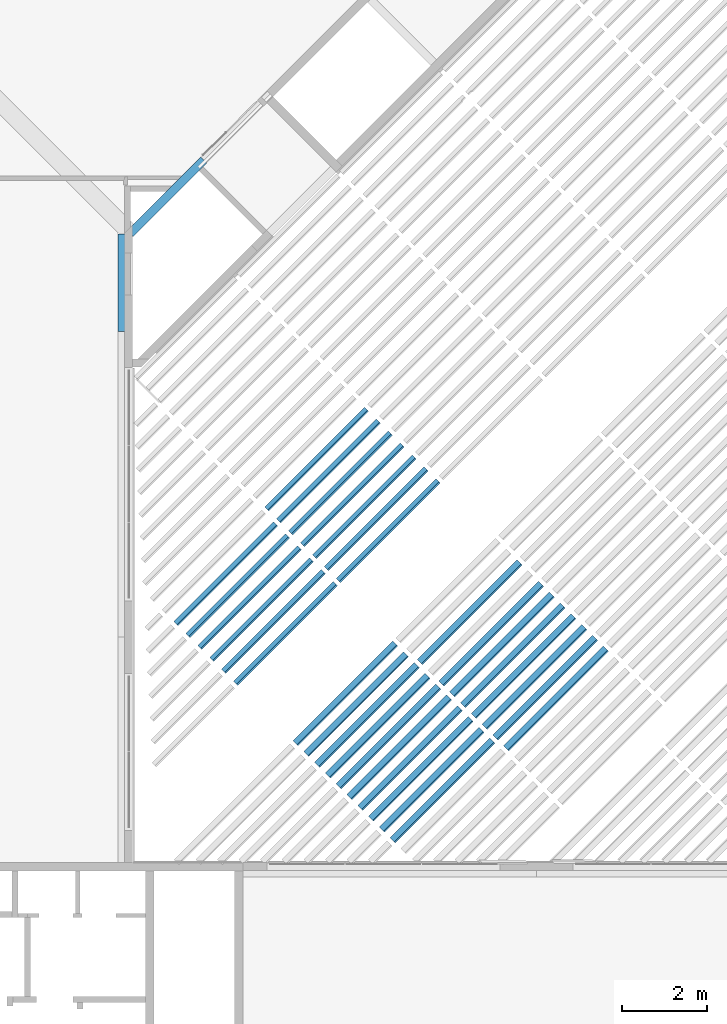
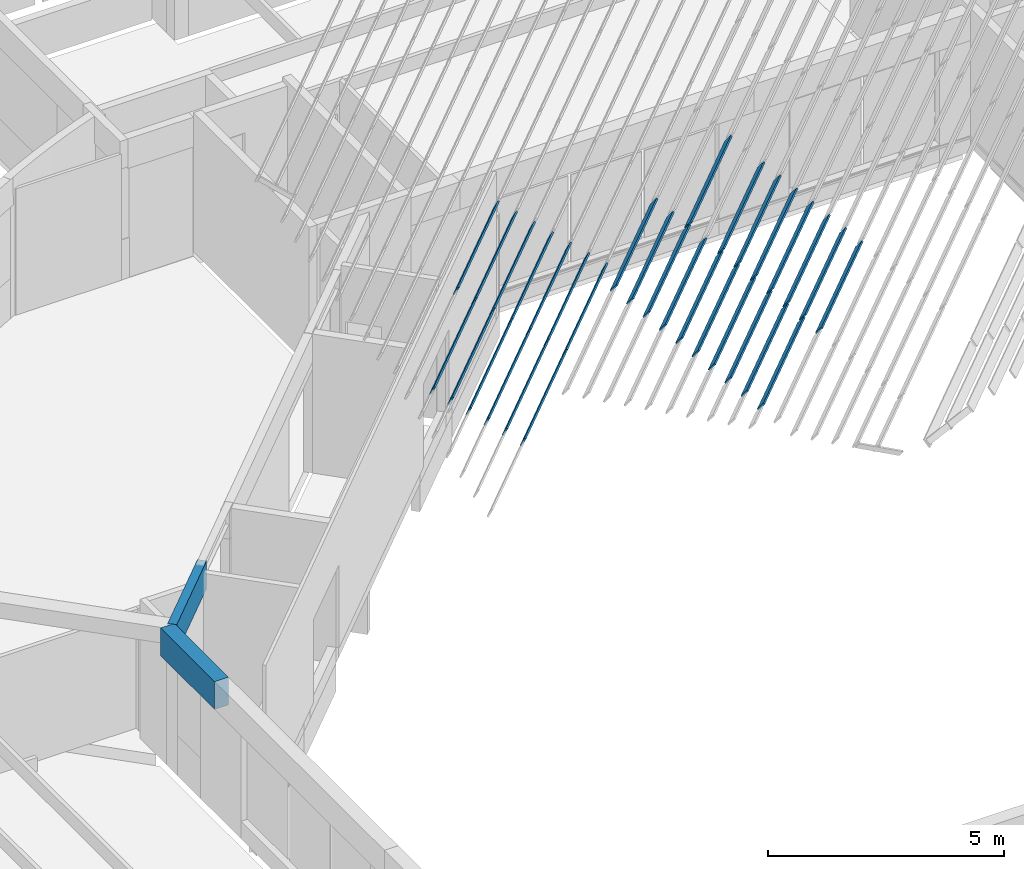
# One storey, part 4 of 37: 33 beams.
"""IFC4X3_ADD2 building model written with IfcOpenShell, lengths in millimetres."""

import ifcopenshell
import ifcopenshell.guid

model = None  # the IFC model being written
_history = None  # IfcOwnerHistory: only IFC2X3 demands one
_inside = {}  # id of a spatial element -> (the spatial element, [elements in it])
_under = {}  # id of a project, library or spatial element -> (it, [spatial elements below it])
_declared = {}  # id of a project -> (the project, [libraries it declares])
_typed = {}  # id of a type object -> (the type object, [elements of that type])
_made_of = {}  # id of a material, layer set ... -> (it, [elements and type objects made of it])


def new_model(schema):
    """Start an empty IFC model of exactly this schema.

    Asked for "IFC4X3", IfcOpenShell would pick the latest addendum, in which some entities
    have other attributes; the version numbers below select the first issue.
    IFC2X3 requires an IfcOwnerHistory on every rooted entity: one is made here for all.
    """
    global model, _history
    if schema == "IFC4X3":
        model = ifcopenshell.file(schema_version=(4, 3, 0, 0))
    else:
        model = ifcopenshell.file(schema=schema)
    _inside.clear()
    _under.clear()
    _declared.clear()
    _typed.clear()
    _made_of.clear()
    _history = None
    if model.schema == "IFC2X3":
        org = make("IfcOrganization", Name="unknown")
        user = make(
            "IfcPersonAndOrganization",
            ThePerson=make("IfcPerson", FamilyName="unknown"),
            TheOrganization=org,
        )
        app = make(
            "IfcApplication",
            ApplicationDeveloper=org,
            Version="unknown",
            ApplicationFullName="unknown",
            ApplicationIdentifier="unknown",
        )
        _history = make(
            "IfcOwnerHistory",
            OwningUser=user,
            OwningApplication=app,
            ChangeAction="ADDED",
            CreationDate=0,
        )
    return model


def make(cls, **values):
    """One entity of the class cls with the attributes given. An attribute that is None is left unset."""
    return model.create_entity(
        cls, **{name: value for name, value in values.items() if value is not None}
    )


def rooted(cls, **values):
    """An entity with a GlobalId (a new one), such as an element, a storey or a relation."""
    return make(cls, GlobalId=ifcopenshell.guid.new(), OwnerHistory=_history, **values)


def si_unit(unit_type, name, prefix=None):
    """IfcSIUnit, for example si_unit("LENGTHUNIT", "METRE", prefix="MILLI")."""
    return make("IfcSIUnit", UnitType=unit_type, Prefix=prefix, Name=name)


def assignment(units):
    """IfcUnitAssignment: the units of a project."""
    return None if units is None else make("IfcUnitAssignment", Units=units)


def point(xyz):
    """IfcCartesianPoint."""
    return None if xyz is None else make("IfcCartesianPoint", Coordinates=xyz)


def direction(xyz):
    """IfcDirection."""
    return None if xyz is None else make("IfcDirection", DirectionRatios=xyz)


def frame(location, z_axis=None, x_axis=None):
    """IfcAxis2Placement3D, a coordinate frame: its origin and axes. An axis left out is left unset."""
    return make(
        "IfcAxis2Placement3D",
        Location=point(location),
        Axis=direction(z_axis),
        RefDirection=direction(x_axis),
    )


def frame_2d(location, x_axis=None):
    """IfcAxis2Placement2D, a coordinate frame in the plane: its origin and x axis."""
    return make(
        "IfcAxis2Placement2D", Location=point(location), RefDirection=direction(x_axis)
    )


def origin_with_axes():
    """The frame at (0, 0, 0) with the z axis (0, 0, 1) and the x axis (1, 0, 0) written out."""
    return frame((0.0, 0.0, 0.0), z_axis=(0.0, 0.0, 1.0), x_axis=(1.0, 0.0, 0.0))


def origin_2d_with_axis():
    """The frame at (0, 0) in the plane with the x axis (1, 0) written out."""
    return frame_2d((0.0, 0.0), x_axis=(1.0, 0.0))


def place(relative_to, where):
    """IfcLocalPlacement: puts the frame where relative to a parent placement (None: the world)."""
    return make(
        "IfcLocalPlacement", PlacementRelTo=relative_to, RelativePlacement=where
    )


def context(
    kind, dimensions, precision=None, world=None, true_north=None, identifier=None
):
    """IfcGeometricRepresentationContext, for example the 3D "Model" context."""
    return make(
        "IfcGeometricRepresentationContext",
        ContextIdentifier=identifier,
        ContextType=kind,
        CoordinateSpaceDimension=dimensions,
        Precision=precision,
        WorldCoordinateSystem=world,
        TrueNorth=true_north,
    )


def subcontext(parent, identifier, kind, view, scale=None):
    """IfcGeometricRepresentationSubContext, for example "Body" below "Model"."""
    return make(
        "IfcGeometricRepresentationSubContext",
        ContextIdentifier=identifier,
        ContextType=kind,
        ParentContext=parent,
        TargetScale=scale,
        TargetView=view,
    )


def project(units=None, contexts=None):
    """IfcProject with its units and contexts."""
    return rooted(
        "IfcProject",
        Name="project",
        RepresentationContexts=contexts,
        UnitsInContext=assignment(units),
    )


def spatial(cls, under=None, at=None, **own):
    """A site, building, storey or space (cls), placed at a placement, below another one or the project."""
    s = rooted(cls, ObjectPlacement=at, **own)
    if under is not None:
        _under.setdefault(under.id(), (under, []))[1].append(s)
    return s


def profile(cls, at=None, kind="AREA", **sizes):
    """A parametric profile (cls). Its sizes go by their IFC names, for example OverallWidth=200.0."""
    return make(cls, ProfileType=kind, Position=at, **sizes)


def rectangle(**sizes):
    """IfcRectangleProfileDef."""
    return profile("IfcRectangleProfileDef", **sizes)


def extrude(swept, where, along, depth):
    """IfcExtrudedAreaSolid: the profile swept, set in the frame where, extruded along a direction by depth."""
    return make(
        "IfcExtrudedAreaSolid",
        SweptArea=swept,
        Position=where,
        ExtrudedDirection=direction(along),
        Depth=depth,
    )


def shape(context_of_items, identifier, shape_type, items):
    """IfcShapeRepresentation: the items that make up one representation, for example the "Body"."""
    return make(
        "IfcShapeRepresentation",
        ContextOfItems=context_of_items,
        RepresentationIdentifier=identifier,
        RepresentationType=shape_type,
        Items=items,
    )


def source(mapping_origin, context_of_items, identifier, shape_type, items):
    """IfcRepresentationMap: a shape defined once, which mapped items show again and again."""
    return make(
        "IfcRepresentationMap",
        MappingOrigin=mapping_origin,
        MappedRepresentation=shape(context_of_items, identifier, shape_type, items),
    )


def transform(
    local_origin,
    x_axis=None,
    y_axis=None,
    z_axis=None,
    scale=None,
    scale2=None,
    scale3=None,
    uniform=True,
):
    """IfcCartesianTransformationOperator3D, or its non-uniform kind. x_axis, y_axis, z_axis: its Axis1, 2, 3."""
    if uniform:
        return make(
            "IfcCartesianTransformationOperator3D",
            Axis1=direction(x_axis),
            Axis2=direction(y_axis),
            LocalOrigin=point(local_origin),
            Scale=scale,
            Axis3=direction(z_axis),
        )
    return make(
        "IfcCartesianTransformationOperator3DnonUniform",
        Axis1=direction(x_axis),
        Axis2=direction(y_axis),
        LocalOrigin=point(local_origin),
        Scale=scale,
        Axis3=direction(z_axis),
        Scale2=scale2,
        Scale3=scale3,
    )


def mapped(mapping_source, mapping_target):
    """IfcMappedItem: shows the shape of a source again, moved by a transform."""
    return make(
        "IfcMappedItem", MappingSource=mapping_source, MappingTarget=mapping_target
    )


def material(Name=None, Category=None):
    """IfcMaterial."""
    return make("IfcMaterial", Name=Name, Category=Category)


def made_of(thing, what):
    """Note that an element or type object is made of a material, layer set ...; save() writes the relation."""
    if what is not None:
        _made_of.setdefault(what.id(), (what, []))[1].append(thing)
    return thing


def type_object(cls, material=None, **own):
    """A type object (cls), such as IfcWallType, which elements share."""
    return made_of(rooted(cls, **own), material)


def type_shapes(of_type, sources):
    """Give a type object the sources (RepresentationMaps) that its elements show as mapped items."""
    of_type.RepresentationMaps = sources


def element(
    cls,
    number,
    at=None,
    inside=None,
    cuts=None,
    type_object=None,
    material=None,
    context=None,
    identifier="Body",
    shape_type=None,
    held_by="IfcProductDefinitionShape",
    body=None,
    shapes=None,
    **own,
):
    """One element of the class cls, such as IfcWall. Its Tag is "e" and its number.

    at: its placement. inside: the storey or other place that contains it. cuts: it is an
    opening in that element (IfcRelVoidsElement). A single representation is given by context,
    identifier, shape_type and body (its items); several are given by shapes. held_by: the class
    of the entity that holds the representations. save() writes the other relations.
    """
    e = rooted(cls, Tag="e%d" % number, ObjectPlacement=at, **own)
    if body is not None:
        shapes = [shape(context, identifier, shape_type, body)]
    if shapes is not None:
        e.Representation = make(held_by, Representations=shapes)
    if inside is not None:
        _inside.setdefault(inside.id(), (inside, []))[1].append(e)
    if cuts is not None:
        rooted(
            "IfcRelVoidsElement", RelatingBuildingElement=cuts, RelatedOpeningElement=e
        )
    if type_object is not None:
        _typed.setdefault(type_object.id(), (type_object, []))[1].append(e)
    return made_of(e, material)


def aggregate(whole, parts):
    """IfcRelAggregates: a whole, such as a stair, and the parts it consists of."""
    return rooted("IfcRelAggregates", RelatingObject=whole, RelatedObjects=parts)


def save(model, path):
    """Write the relations noted so far, then the file.

    IfcRelAggregates (storeys below a building ...), IfcRelContainedInSpatialStructure (elements
    in a storey), IfcRelDefinesByType, IfcRelAssociatesMaterial and IfcRelDeclares: one each for
    every whole, place, type object, material and project.
    """
    for whole, parts in _under.values():
        aggregate(whole, parts)
    for where, things in _inside.values():
        rooted(
            "IfcRelContainedInSpatialStructure",
            RelatedElements=things,
            RelatingStructure=where,
        )
    for kind, things in _typed.values():
        rooted("IfcRelDefinesByType", RelatedObjects=things, RelatingType=kind)
    for what, things in _made_of.values():
        rooted("IfcRelAssociatesMaterial", RelatedObjects=things, RelatingMaterial=what)
    for by, libraries in _declared.values():
        rooted("IfcRelDeclares", RelatingContext=by, RelatedDefinitions=libraries)
    model.write(path)


model = new_model("IFC4X3_ADD2")

# Units and contexts
model_context = context("Model", 3, precision=1e-05, world=origin_with_axes(), true_north=direction((0.0, 1.0)))
body_context = subcontext(model_context, "Body", "Model", "MODEL_VIEW")
ifc_project = project(units=[si_unit("LENGTHUNIT", "METRE", prefix="MILLI"), si_unit("AREAUNIT", "SQUARE_METRE"), si_unit("VOLUMEUNIT", "CUBIC_METRE"), si_unit("PLANEANGLEUNIT", "RADIAN"), si_unit("TIMEUNIT", "SECOND"), si_unit("MASSUNIT", "GRAM")], contexts=[model_context])

# Site, building, storey
site_placement = place(None, origin_with_axes())
site = spatial("IfcSite", under=ifc_project, at=site_placement, Name="Site", CompositionType="ELEMENT")
building_placement = place(site_placement, origin_with_axes())
building = spatial("IfcBuilding", under=site, at=building_placement, Name="IFC Building Story")
storey_placement = place(building_placement, frame((0.0, 0.0, 3600.0), z_axis=(0.0, 0.0, 1.0), x_axis=(1.0, 0.0, 0.0)))
storey = spatial("IfcBuildingStorey", under=building, at=storey_placement, Name="010", Elevation=3600.0)

# Beams
ifc_material_1 = material(Name="BB_Beton_Bestaand")
beam_type_1 = type_object("IfcBeamType", Name="BB_XX_Betonbalk_ rechthoekig_ center-center_SFB_340 x 720 mm137", PredefinedType="NOTDEFINED")
shared_shape_1 = source(origin_with_axes(), body_context, "Body", "SweptSolid", [
    extrude(rectangle(XDim=2293.765876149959, YDim=339.9999999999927, at=frame_2d((0.0, 0.0), x_axis=(0.0, 1.0))), frame((-38775.00000000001, 26346.88293807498, 6280.0), z_axis=(0.0, 0.0, 1.0), x_axis=(1.0, 0.0, 0.0)), (0.0, 0.0, 1.0), 719.9999999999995),
])
type_shapes(beam_type_1, [shared_shape_1])
beam_1_placement = place(storey_placement, frame((0.0, 0.0, -3600.0), z_axis=(0.0, 0.0, 1.0), x_axis=(1.0, 0.0, 0.0)))
element("IfcBeam", 1, at=beam_1_placement, inside=storey, type_object=beam_type_1, material=ifc_material_1, Name="BB_XX_Betonbalk, rechthoekig, center-center_SFB:340 x 720 mm", ObjectType="340 x 720 mm", PredefinedType="BEAM", context=body_context, shape_type="MappedRepresentation", body=[
    mapped(shared_shape_1, transform((0.0, 0.0, 0.0))),
])
beam_type_2 = type_object("IfcBeamType", Name="BB_XX_Betonbalk_ rechthoekig_ center-center_SFB_200 x 720 mm21", PredefinedType="NOTDEFINED")
shared_shape_2 = source(origin_with_axes(), body_context, "Body", "SweptSolid", [
    extrude(rectangle(XDim=2446.179284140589, YDim=200.0000000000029, at=frame_2d((0.0, 0.0), x_axis=(0.7071067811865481, 0.7071067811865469))), frame((-37792.25919776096, 28362.15638996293, 6280.0), z_axis=(0.0, 0.0, 1.0), x_axis=(1.0, 0.0, 0.0)), (0.0, 0.0, 1.0), 719.999999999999),
])
type_shapes(beam_type_2, [shared_shape_2])
beam_2_placement = place(storey_placement, frame((0.0, 0.0, -3600.0), z_axis=(0.0, 0.0, 1.0), x_axis=(1.0, 0.0, 0.0)))
element("IfcBeam", 2, at=beam_2_placement, inside=storey, type_object=beam_type_2, material=ifc_material_1, Name="BB_XX_Betonbalk, rechthoekig, center-center_SFB:200 x 720 mm", ObjectType="200 x 720 mm", PredefinedType="BEAM", context=body_context, shape_type="MappedRepresentation", body=[
    mapped(shared_shape_2, transform((0.0, 0.0, 0.0))),
])
ifc_material_2 = material(Name="GVH_i2_naaldhout_generiek")
beam_type_3 = type_object("IfcBeamType", Name="28_SF_hout_rechthoekig_40 x 230_31", PredefinedType="NOTDEFINED")
shared_shape_3 = source(origin_with_axes(), body_context, "Body", "SweptSolid", [
    extrude(rectangle(XDim=3317.28000002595, YDim=40.0000000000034, at=origin_2d_with_axis()), frame((0.8883245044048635, 0.0, -115.0), z_axis=(0.0, 0.0, 1.0), x_axis=(1.0, 0.0, 0.0)), (0.0, 0.0, 1.0), 230.0),
])
type_shapes(beam_type_3, [shared_shape_3])
beam_3_placement = place(storey_placement, frame((-32587.34802574, 20506.7044016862, 13650.1221194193), z_axis=(0.311937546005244, -0.311937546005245, 0.8974351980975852), x_axis=(-0.7071067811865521, -0.707106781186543, 0.0)))
element("IfcBeam", 3, at=beam_3_placement, inside=storey, type_object=beam_type_3, material=ifc_material_2, Name="28_SF_hout_rechthoekig:40 x 230", ObjectType="40 x 230", PredefinedType="BEAM", context=body_context, shape_type="MappedRepresentation", body=[
    mapped(shared_shape_3, transform((0.0, 0.0, 0.0))),
])
beam_type_4 = type_object("IfcBeamType", Name="28_SF_hout_rechthoekig_40 x 230_33", PredefinedType="NOTDEFINED")
shared_shape_4 = source(origin_with_axes(), body_context, "Body", "SweptSolid", [
    extrude(rectangle(XDim=3317.28000002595, YDim=40.0000000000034, at=origin_2d_with_axis()), frame((0.8882380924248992, 0.0, -115.0), z_axis=(0.0, 0.0, 1.0), x_axis=(1.0, 0.0, 0.0)), (0.0, 0.0, 1.0), 230.0000000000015),
])
type_shapes(beam_type_4, [shared_shape_4])
beam_4_placement = place(storey_placement, frame((-32868.3411630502, 20787.6975389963, 13845.4617046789), z_axis=(0.311937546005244, -0.311937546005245, 0.8974351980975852), x_axis=(-0.7071067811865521, -0.707106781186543, 0.0)))
element("IfcBeam", 4, at=beam_4_placement, inside=storey, type_object=beam_type_4, material=ifc_material_2, Name="28_SF_hout_rechthoekig:40 x 230", ObjectType="40 x 230", PredefinedType="BEAM", context=body_context, shape_type="MappedRepresentation", body=[
    mapped(shared_shape_4, transform((0.0, 0.0, 0.0))),
])
beam_type_5 = type_object("IfcBeamType", Name="28_SF_hout_rechthoekig_40 x 230_35", PredefinedType="NOTDEFINED")
shared_shape_5 = source(origin_with_axes(), body_context, "Body", "SweptSolid", [
    extrude(rectangle(XDim=3317.28000002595, YDim=40.0000000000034, at=origin_2d_with_axis()), frame((0.8881516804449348, 0.0, -115.0), z_axis=(0.0, 0.0, 1.0), x_axis=(1.0, 0.0, 0.0)), (0.0, 0.0, 1.0), 230.0000000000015),
])
type_shapes(beam_type_5, [shared_shape_5])
beam_5_placement = place(storey_placement, frame((-33149.3343003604, 21068.6906763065, 14040.8012899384), z_axis=(0.311937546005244, -0.311937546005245, 0.8974351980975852), x_axis=(-0.7071067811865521, -0.707106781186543, 0.0)))
element("IfcBeam", 5, at=beam_5_placement, inside=storey, type_object=beam_type_5, material=ifc_material_2, Name="28_SF_hout_rechthoekig:40 x 230", ObjectType="40 x 230", PredefinedType="BEAM", context=body_context, shape_type="MappedRepresentation", body=[
    mapped(shared_shape_5, transform((0.0, 0.0, 0.0))),
])
beam_type_6 = type_object("IfcBeamType", Name="28_SF_hout_rechthoekig_40 x 230_37", PredefinedType="NOTDEFINED")
shared_shape_6 = source(origin_with_axes(), body_context, "Body", "SweptSolid", [
    extrude(rectangle(XDim=3317.28000002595, YDim=40.0000000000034, at=origin_2d_with_axis()), frame((0.8880652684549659, 0.0, -115.0), z_axis=(0.0, 0.0, 1.0), x_axis=(1.0, 0.0, 0.0)), (0.0, 0.0, 1.0), 230.0000000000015),
])
type_shapes(beam_type_6, [shared_shape_6])
beam_6_placement = place(storey_placement, frame((-33430.3274376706, 21349.6838136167, 14236.140875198), z_axis=(0.311937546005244, -0.311937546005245, 0.8974351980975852), x_axis=(-0.7071067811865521, -0.707106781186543, 0.0)))
element("IfcBeam", 6, at=beam_6_placement, inside=storey, type_object=beam_type_6, material=ifc_material_2, Name="28_SF_hout_rechthoekig:40 x 230", ObjectType="40 x 230", PredefinedType="BEAM", context=body_context, shape_type="MappedRepresentation", body=[
    mapped(shared_shape_6, transform((0.0, 0.0, 0.0))),
])
beam_type_7 = type_object("IfcBeamType", Name="28_SF_hout_rechthoekig_40 x 230_39", PredefinedType="NOTDEFINED")
shared_shape_7 = source(origin_with_axes(), body_context, "Body", "SweptSolid", [
    extrude(rectangle(XDim=3317.28000002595, YDim=40.0000000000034, at=origin_2d_with_axis()), frame((0.887978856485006, 0.0, -115.0), z_axis=(0.0, 0.0, 1.0), x_axis=(1.0, 0.0, 0.0)), (0.0, 0.0, 1.0), 230.0000000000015),
])
type_shapes(beam_type_7, [shared_shape_7])
beam_7_placement = place(storey_placement, frame((-33711.3205749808, 21630.6769509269, 14431.4804604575), z_axis=(0.311937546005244, -0.311937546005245, 0.8974351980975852), x_axis=(-0.7071067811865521, -0.707106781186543, 0.0)))
element("IfcBeam", 7, at=beam_7_placement, inside=storey, type_object=beam_type_7, material=ifc_material_2, Name="28_SF_hout_rechthoekig:40 x 230", ObjectType="40 x 230", PredefinedType="BEAM", context=body_context, shape_type="MappedRepresentation", body=[
    mapped(shared_shape_7, transform((0.0, 0.0, 0.0))),
])
beam_type_8 = type_object("IfcBeamType", Name="28_SF_hout_rechthoekig_40 x 230_41", PredefinedType="NOTDEFINED")
shared_shape_8 = source(origin_with_axes(), body_context, "Body", "SweptSolid", [
    extrude(rectangle(XDim=3317.28000002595, YDim=40.0000000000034, at=origin_2d_with_axis()), frame((0.8878924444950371, 0.0, -115.0), z_axis=(0.0, 0.0, 1.0), x_axis=(1.0, 0.0, 0.0)), (0.0, 0.0, 1.0), 230.0000000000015),
])
type_shapes(beam_type_8, [shared_shape_8])
beam_8_placement = place(storey_placement, frame((-33992.313712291, 21911.6700882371, 14626.8200457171), z_axis=(0.311937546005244, -0.311937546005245, 0.8974351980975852), x_axis=(-0.7071067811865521, -0.707106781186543, 0.0)))
element("IfcBeam", 8, at=beam_8_placement, inside=storey, type_object=beam_type_8, material=ifc_material_2, Name="28_SF_hout_rechthoekig:40 x 230", ObjectType="40 x 230", PredefinedType="BEAM", context=body_context, shape_type="MappedRepresentation", body=[
    mapped(shared_shape_8, transform((0.0, 0.0, 0.0))),
])
beam_type_9 = type_object("IfcBeamType", Name="28_SF_hout_rechthoekig_40 x 230_43", PredefinedType="NOTDEFINED")
shared_shape_9 = source(origin_with_axes(), body_context, "Body", "SweptSolid", [
    extrude(rectangle(XDim=3317.28000002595, YDim=40.0000000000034, at=origin_2d_with_axis()), frame((0.8878060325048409, 0.0, -115.0), z_axis=(0.0, 0.0, 1.0), x_axis=(1.0, 0.0, 0.0)), (0.0, 0.0, 1.0), 230.0000000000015),
])
type_shapes(beam_type_9, [shared_shape_9])
beam_9_placement = place(storey_placement, frame((-34273.3068496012, 22192.6632255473, 14822.1596309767), z_axis=(0.311937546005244, -0.311937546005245, 0.8974351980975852), x_axis=(-0.7071067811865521, -0.707106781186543, 0.0)))
element("IfcBeam", 9, at=beam_9_placement, inside=storey, type_object=beam_type_9, material=ifc_material_2, Name="28_SF_hout_rechthoekig:40 x 230", ObjectType="40 x 230", PredefinedType="BEAM", context=body_context, shape_type="MappedRepresentation", body=[
    mapped(shared_shape_9, transform((0.0, 0.0, 0.0))),
])
beam_type_10 = type_object("IfcBeamType", Name="28_SF_hout_rechthoekig_40 x 230_259", PredefinedType="NOTDEFINED")
shared_shape_10 = source(origin_with_axes(), body_context, "Body", "SweptSolid", [
    extrude(rectangle(XDim=3317.26994041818, YDim=40.0000000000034, at=origin_2d_with_axis()), frame((0.883294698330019, 0.0, -115.0), z_axis=(0.0, 0.0, 1.0), x_axis=(1.0, 0.0, 0.0)), (0.0, 0.0, 1.0), 230.0),
])
type_shapes(beam_type_10, [shared_shape_10])
beam_10_placement = place(storey_placement, frame((-35003.7298869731, 18090.3225404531, 13650.1221194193), z_axis=(0.311937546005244, -0.311937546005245, 0.8974351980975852), x_axis=(-0.7071067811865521, -0.707106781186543, 0.0)))
element("IfcBeam", 10, at=beam_10_placement, inside=storey, type_object=beam_type_10, material=ifc_material_2, Name="28_SF_hout_rechthoekig:40 x 230", ObjectType="40 x 230", PredefinedType="BEAM", context=body_context, shape_type="MappedRepresentation", body=[
    mapped(shared_shape_10, transform((0.0, 0.0, 0.0))),
])
beam_type_11 = type_object("IfcBeamType", Name="28_SF_hout_rechthoekig_40 x 230_261", PredefinedType="NOTDEFINED")
shared_shape_11 = source(origin_with_axes(), body_context, "Body", "SweptSolid", [
    extrude(rectangle(XDim=3317.26988030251, YDim=40.0000000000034, at=origin_2d_with_axis()), frame((0.8831782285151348, 0.0, -115.0), z_axis=(0.0, 0.0, 1.0), x_axis=(1.0, 0.0, 0.0)), (0.0, 0.0, 1.0), 230.0),
])
type_shapes(beam_type_11, [shared_shape_11])
beam_11_placement = place(storey_placement, frame((-35284.7230242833, 18371.3156777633, 13845.4617046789), z_axis=(0.311937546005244, -0.311937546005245, 0.8974351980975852), x_axis=(-0.7071067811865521, -0.707106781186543, 0.0)))
element("IfcBeam", 11, at=beam_11_placement, inside=storey, type_object=beam_type_11, material=ifc_material_2, Name="28_SF_hout_rechthoekig:40 x 230", ObjectType="40 x 230", PredefinedType="BEAM", context=body_context, shape_type="MappedRepresentation", body=[
    mapped(shared_shape_11, transform((0.0, 0.0, 0.0))),
])
beam_type_12 = type_object("IfcBeamType", Name="28_SF_hout_rechthoekig_40 x 230_263", PredefinedType="NOTDEFINED")
shared_shape_12 = source(origin_with_axes(), body_context, "Body", "SweptSolid", [
    extrude(rectangle(XDim=3317.26982018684, YDim=40.0000000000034, at=origin_2d_with_axis()), frame((0.8830617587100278, 0.0, -115.0), z_axis=(0.0, 0.0, 1.0), x_axis=(1.0, 0.0, 0.0)), (0.0, 0.0, 1.0), 230.0),
])
type_shapes(beam_type_12, [shared_shape_12])
beam_12_placement = place(storey_placement, frame((-35565.7161615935, 18652.3088150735, 14040.8012899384), z_axis=(0.311937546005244, -0.311937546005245, 0.8974351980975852), x_axis=(-0.7071067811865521, -0.707106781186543, 0.0)))
element("IfcBeam", 12, at=beam_12_placement, inside=storey, type_object=beam_type_12, material=ifc_material_2, Name="28_SF_hout_rechthoekig:40 x 230", ObjectType="40 x 230", PredefinedType="BEAM", context=body_context, shape_type="MappedRepresentation", body=[
    mapped(shared_shape_12, transform((0.0, 0.0, 0.0))),
])
beam_type_13 = type_object("IfcBeamType", Name="28_SF_hout_rechthoekig_40 x 230_265", PredefinedType="NOTDEFINED")
shared_shape_13 = source(origin_with_axes(), body_context, "Body", "SweptSolid", [
    extrude(rectangle(XDim=3317.26976007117, YDim=40.0000000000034, at=origin_2d_with_axis()), frame((0.8829452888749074, 0.0, -115.0), z_axis=(0.0, 0.0, 1.0), x_axis=(1.0, 0.0, 0.0)), (0.0, 0.0, 1.0), 230.0),
])
type_shapes(beam_type_13, [shared_shape_13])
beam_13_placement = place(storey_placement, frame((-35846.7092989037, 18933.3019523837, 14236.140875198), z_axis=(0.311937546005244, -0.311937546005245, 0.8974351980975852), x_axis=(-0.7071067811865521, -0.707106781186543, 0.0)))
element("IfcBeam", 13, at=beam_13_placement, inside=storey, type_object=beam_type_13, material=ifc_material_2, Name="28_SF_hout_rechthoekig:40 x 230", ObjectType="40 x 230", PredefinedType="BEAM", context=body_context, shape_type="MappedRepresentation", body=[
    mapped(shared_shape_13, transform((0.0, 0.0, 0.0))),
])
beam_type_14 = type_object("IfcBeamType", Name="28_SF_hout_rechthoekig_40 x 230_267", PredefinedType="NOTDEFINED")
shared_shape_14 = source(origin_with_axes(), body_context, "Body", "SweptSolid", [
    extrude(rectangle(XDim=3317.2696999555, YDim=40.0000000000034, at=origin_2d_with_axis()), frame((0.8828288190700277, 0.0, -115.0), z_axis=(0.0, 0.0, 1.0), x_axis=(1.0, 0.0, 0.0)), (0.0, 0.0, 1.0), 230.0),
])
type_shapes(beam_type_14, [shared_shape_14])
beam_14_placement = place(storey_placement, frame((-36127.7024362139, 19214.2950896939, 14431.4804604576), z_axis=(0.311937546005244, -0.311937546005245, 0.8974351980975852), x_axis=(-0.7071067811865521, -0.707106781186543, 0.0)))
element("IfcBeam", 14, at=beam_14_placement, inside=storey, type_object=beam_type_14, material=ifc_material_2, Name="28_SF_hout_rechthoekig:40 x 230", ObjectType="40 x 230", PredefinedType="BEAM", context=body_context, shape_type="MappedRepresentation", body=[
    mapped(shared_shape_14, transform((0.0, 0.0, 0.0))),
])
beam_type_15 = type_object("IfcBeamType", Name="28_SF_hout_rechthoekig_40 x 230_269", PredefinedType="NOTDEFINED")
shared_shape_15 = source(origin_with_axes(), body_context, "Body", "SweptSolid", [
    extrude(rectangle(XDim=3317.26963983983, YDim=40.0000000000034, at=origin_2d_with_axis()), frame((0.8827123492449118, 0.0, -115.0), z_axis=(0.0, 0.0, 1.0), x_axis=(1.0, 0.0, 0.0)), (0.0, 0.0, 1.0), 230.0),
])
type_shapes(beam_type_15, [shared_shape_15])
beam_15_placement = place(storey_placement, frame((-36408.6955735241, 19495.2882270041, 14626.8200457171), z_axis=(0.311937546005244, -0.311937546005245, 0.8974351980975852), x_axis=(-0.7071067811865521, -0.707106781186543, 0.0)))
element("IfcBeam", 15, at=beam_15_placement, inside=storey, type_object=beam_type_15, material=ifc_material_2, Name="28_SF_hout_rechthoekig:40 x 230", ObjectType="40 x 230", PredefinedType="BEAM", context=body_context, shape_type="MappedRepresentation", body=[
    mapped(shared_shape_15, transform((0.0, 0.0, 0.0))),
])
beam_type_16 = type_object("IfcBeamType", Name="28_SF_hout_rechthoekig_40 x 230_315", PredefinedType="NOTDEFINED")
shared_shape_16 = source(origin_with_axes(), body_context, "Body", "SweptSolid", [
    extrude(rectangle(XDim=3315.44000000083, YDim=40.0000000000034, at=origin_2d_with_axis()), frame((-37.72342077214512, 0.0, -115.0), z_axis=(0.0, 0.0, 1.0), x_axis=(1.0, 0.0, 0.0)), (0.0, 0.0, 1.0), 229.999999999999),
])
type_shapes(beam_type_16, [shared_shape_16])
beam_16_placement = place(storey_placement, frame((-28664.6770847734, 16530.724719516, 15245.0766914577), z_axis=(0.4307932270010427, -0.4307932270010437, 0.7929907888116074), x_axis=(-0.7071067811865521, -0.707106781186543, 0.0)))
element("IfcBeam", 16, at=beam_16_placement, inside=storey, type_object=beam_type_16, material=ifc_material_2, Name="28_SF_hout_rechthoekig:40 x 230", ObjectType="40 x 230", PredefinedType="BEAM", context=body_context, shape_type="MappedRepresentation", body=[
    mapped(shared_shape_16, transform((0.0, 0.0, 0.0))),
])
beam_type_17 = type_object("IfcBeamType", Name="28_SF_hout_rechthoekig_40 x 230_317", PredefinedType="NOTDEFINED")
shared_shape_17 = source(origin_with_axes(), body_context, "Body", "SweptSolid", [
    extrude(rectangle(XDim=3315.44000000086, YDim=40.0000000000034, at=origin_2d_with_axis()), frame((-37.72336970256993, 0.0, -115.0), z_axis=(0.0, 0.0, 1.0), x_axis=(1.0, 0.0, 0.0)), (0.0, 0.0, 1.0), 229.999999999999),
])
type_shapes(beam_type_17, [shared_shape_17])
beam_17_placement = place(storey_placement, frame((-28918.6873961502, 16784.7350308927, 15521.0595232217), z_axis=(0.4307932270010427, -0.4307932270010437, 0.7929907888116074), x_axis=(-0.7071067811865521, -0.707106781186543, 0.0)))
element("IfcBeam", 17, at=beam_17_placement, inside=storey, type_object=beam_type_17, material=ifc_material_2, Name="28_SF_hout_rechthoekig:40 x 230", ObjectType="40 x 230", PredefinedType="BEAM", context=body_context, shape_type="MappedRepresentation", body=[
    mapped(shared_shape_17, transform((0.0, 0.0, 0.0))),
])
beam_type_18 = type_object("IfcBeamType", Name="28_SF_hout_rechthoekig_40 x 230_319", PredefinedType="NOTDEFINED")
shared_shape_18 = source(origin_with_axes(), body_context, "Body", "SweptSolid", [
    extrude(rectangle(XDim=3315.44000000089, YDim=40.0000000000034, at=origin_2d_with_axis()), frame((-37.72331863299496, 0.0, -115.0), z_axis=(0.0, 0.0, 1.0), x_axis=(1.0, 0.0, 0.0)), (0.0, 0.0, 1.0), 229.999999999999),
])
type_shapes(beam_type_18, [shared_shape_18])
beam_18_placement = place(storey_placement, frame((-29172.6977075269, 17038.7453422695, 15797.0423549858), z_axis=(0.4307932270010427, -0.4307932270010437, 0.7929907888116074), x_axis=(-0.7071067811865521, -0.707106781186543, 0.0)))
element("IfcBeam", 18, at=beam_18_placement, inside=storey, type_object=beam_type_18, material=ifc_material_2, Name="28_SF_hout_rechthoekig:40 x 230", ObjectType="40 x 230", PredefinedType="BEAM", context=body_context, shape_type="MappedRepresentation", body=[
    mapped(shared_shape_18, transform((0.0, 0.0, 0.0))),
])
beam_type_19 = type_object("IfcBeamType", Name="28_SF_hout_rechthoekig_40 x 230_321", PredefinedType="NOTDEFINED")
shared_shape_19 = source(origin_with_axes(), body_context, "Body", "SweptSolid", [
    extrude(rectangle(XDim=3315.44000000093, YDim=40.0000000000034, at=origin_2d_with_axis()), frame((-37.723267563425, 0.0, -115.0), z_axis=(0.0, 0.0, 1.0), x_axis=(1.0, 0.0, 0.0)), (0.0, 0.0, 1.0), 229.999999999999),
])
type_shapes(beam_type_19, [shared_shape_19])
beam_19_placement = place(storey_placement, frame((-29426.7080189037, 17292.7556536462, 16073.0251867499), z_axis=(0.4307932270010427, -0.4307932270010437, 0.7929907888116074), x_axis=(-0.7071067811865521, -0.707106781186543, 0.0)))
element("IfcBeam", 19, at=beam_19_placement, inside=storey, type_object=beam_type_19, material=ifc_material_2, Name="28_SF_hout_rechthoekig:40 x 230", ObjectType="40 x 230", PredefinedType="BEAM", context=body_context, shape_type="MappedRepresentation", body=[
    mapped(shared_shape_19, transform((0.0, 0.0, 0.0))),
])
beam_type_20 = type_object("IfcBeamType", Name="28_SF_hout_rechthoekig_40 x 230_323", PredefinedType="NOTDEFINED")
shared_shape_20 = source(origin_with_axes(), body_context, "Body", "SweptSolid", [
    extrude(rectangle(XDim=3315.44000000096, YDim=40.0000000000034, at=origin_2d_with_axis()), frame((-37.72321649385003, 0.0, -115.0), z_axis=(0.0, 0.0, 1.0), x_axis=(1.0, 0.0, 0.0)), (0.0, 0.0, 1.0), 229.999999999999),
])
type_shapes(beam_type_20, [shared_shape_20])
beam_20_placement = place(storey_placement, frame((-29680.7183302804, 17546.765965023, 16349.008018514), z_axis=(0.4307932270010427, -0.4307932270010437, 0.7929907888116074), x_axis=(-0.7071067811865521, -0.707106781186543, 0.0)))
element("IfcBeam", 20, at=beam_20_placement, inside=storey, type_object=beam_type_20, material=ifc_material_2, Name="28_SF_hout_rechthoekig:40 x 230", ObjectType="40 x 230", PredefinedType="BEAM", context=body_context, shape_type="MappedRepresentation", body=[
    mapped(shared_shape_20, transform((0.0, 0.0, 0.0))),
])
beam_type_21 = type_object("IfcBeamType", Name="28_SF_hout_rechthoekig_40 x 230_325", PredefinedType="NOTDEFINED")
shared_shape_21 = source(origin_with_axes(), body_context, "Body", "SweptSolid", [
    extrude(rectangle(XDim=3315.44000000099, YDim=40.0000000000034, at=origin_2d_with_axis()), frame((-37.72316542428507, 0.0, -115.0), z_axis=(0.0, 0.0, 1.0), x_axis=(1.0, 0.0, 0.0)), (0.0, 0.0, 1.0), 229.999999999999),
])
type_shapes(beam_type_21, [shared_shape_21])
beam_21_placement = place(storey_placement, frame((-29934.7286416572, 17800.7762763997, 16624.9908502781), z_axis=(0.4307932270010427, -0.4307932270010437, 0.7929907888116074), x_axis=(-0.7071067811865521, -0.707106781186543, 0.0)))
element("IfcBeam", 21, at=beam_21_placement, inside=storey, type_object=beam_type_21, material=ifc_material_2, Name="28_SF_hout_rechthoekig:40 x 230", ObjectType="40 x 230", PredefinedType="BEAM", context=body_context, shape_type="MappedRepresentation", body=[
    mapped(shared_shape_21, transform((0.0, 0.0, 0.0))),
])
beam_type_22 = type_object("IfcBeamType", Name="28_SF_hout_rechthoekig_40 x 230_327", PredefinedType="NOTDEFINED")
shared_shape_22 = source(origin_with_axes(), body_context, "Body", "SweptSolid", [
    extrude(rectangle(XDim=3315.44000000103, YDim=40.0000000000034, at=origin_2d_with_axis()), frame((-37.72311435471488, 0.0, -115.0), z_axis=(0.0, 0.0, 1.0), x_axis=(1.0, 0.0, 0.0)), (0.0, 0.0, 1.0), 229.999999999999),
])
type_shapes(beam_type_22, [shared_shape_22])
beam_22_placement = place(storey_placement, frame((-30188.7389530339, 18054.7865877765, 16900.9736820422), z_axis=(0.4307932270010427, -0.4307932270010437, 0.7929907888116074), x_axis=(-0.7071067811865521, -0.707106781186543, 0.0)))
element("IfcBeam", 22, at=beam_22_placement, inside=storey, type_object=beam_type_22, material=ifc_material_2, Name="28_SF_hout_rechthoekig:40 x 230", ObjectType="40 x 230", PredefinedType="BEAM", context=body_context, shape_type="MappedRepresentation", body=[
    mapped(shared_shape_22, transform((0.0, 0.0, 0.0))),
])
beam_type_23 = type_object("IfcBeamType", Name="28_SF_hout_rechthoekig_40 x 230_331", PredefinedType="NOTDEFINED")
shared_shape_23 = source(origin_with_axes(), body_context, "Body", "SweptSolid", [
    extrude(rectangle(XDim=3315.4400000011, YDim=40.0000000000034, at=origin_2d_with_axis()), frame((-37.72301221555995, 0.0, -115.0), z_axis=(0.0, 0.0, 1.0), x_axis=(1.0, 0.0, 0.0)), (0.0, 0.0, 1.0), 229.9999999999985),
])
type_shapes(beam_type_23, [shared_shape_23])
beam_23_placement = place(storey_placement, frame((-30696.7595757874, 18562.80721053, 17452.9393455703), z_axis=(0.4307932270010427, -0.4307932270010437, 0.7929907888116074), x_axis=(-0.7071067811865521, -0.707106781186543, 0.0)))
element("IfcBeam", 23, at=beam_23_placement, inside=storey, type_object=beam_type_23, material=ifc_material_2, Name="28_SF_hout_rechthoekig:40 x 230", ObjectType="40 x 230", PredefinedType="BEAM", context=body_context, shape_type="MappedRepresentation", body=[
    mapped(shared_shape_23, transform((0.0, 0.0, 0.0))),
])
beam_type_24 = type_object("IfcBeamType", Name="28_SF_hout_rechthoekig_40 x 230_559", PredefinedType="NOTDEFINED")
shared_shape_24 = source(origin_with_axes(), body_context, "Body", "SweptSolid", [
    extrude(rectangle(XDim=3319.10999998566, YDim=40.0000000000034, at=origin_2d_with_axis()), frame((-39.55836969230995, 0.0, -115.0), z_axis=(0.0, 0.0, 1.0), x_axis=(1.0, 0.0, 0.0)), (0.0, 0.0, 1.0), 230.0),
])
type_shapes(beam_type_24, [shared_shape_24])
beam_24_placement = place(storey_placement, frame((-31336.3632627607, 14367.0591642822, 15521.0595232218), z_axis=(0.4307932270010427, -0.4307932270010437, 0.7929907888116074), x_axis=(-0.7071067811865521, -0.707106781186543, 0.0)))
element("IfcBeam", 24, at=beam_24_placement, inside=storey, type_object=beam_type_24, material=ifc_material_2, Name="28_SF_hout_rechthoekig:40 x 230", ObjectType="40 x 230", PredefinedType="BEAM", context=body_context, shape_type="MappedRepresentation", body=[
    mapped(shared_shape_24, transform((0.0, 0.0, 0.0))),
])
beam_type_25 = type_object("IfcBeamType", Name="28_SF_hout_rechthoekig_40 x 230_561", PredefinedType="NOTDEFINED")
shared_shape_25 = source(origin_with_axes(), body_context, "Body", "SweptSolid", [
    extrude(rectangle(XDim=3319.10999998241, YDim=40.0000000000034, at=origin_2d_with_axis()), frame((-39.55831862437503, 0.0, -115.0), z_axis=(0.0, 0.0, 1.0), x_axis=(1.0, 0.0, 0.0)), (0.0, 0.0, 1.0), 230.0),
])
type_shapes(beam_type_25, [shared_shape_25])
beam_25_placement = place(storey_placement, frame((-31590.3735741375, 14621.0694756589, 15797.0423549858), z_axis=(0.4307932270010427, -0.4307932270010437, 0.7929907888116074), x_axis=(-0.7071067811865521, -0.707106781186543, 0.0)))
element("IfcBeam", 25, at=beam_25_placement, inside=storey, type_object=beam_type_25, material=ifc_material_2, Name="28_SF_hout_rechthoekig:40 x 230", ObjectType="40 x 230", PredefinedType="BEAM", context=body_context, shape_type="MappedRepresentation", body=[
    mapped(shared_shape_25, transform((0.0, 0.0, 0.0))),
])
beam_type_26 = type_object("IfcBeamType", Name="28_SF_hout_rechthoekig_40 x 230_563", PredefinedType="NOTDEFINED")
shared_shape_26 = source(origin_with_axes(), body_context, "Body", "SweptSolid", [
    extrude(rectangle(XDim=3319.10999997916, YDim=40.0000000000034, at=origin_2d_with_axis()), frame((-39.55826755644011, 0.0, -115.0), z_axis=(0.0, 0.0, 1.0), x_axis=(1.0, 0.0, 0.0)), (0.0, 0.0, 1.0), 230.0),
])
type_shapes(beam_type_26, [shared_shape_26])
beam_26_placement = place(storey_placement, frame((-31844.3838855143, 14875.0797870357, 16073.0251867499), z_axis=(0.4307932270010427, -0.4307932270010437, 0.7929907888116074), x_axis=(-0.7071067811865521, -0.707106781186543, 0.0)))
element("IfcBeam", 26, at=beam_26_placement, inside=storey, type_object=beam_type_26, material=ifc_material_2, Name="28_SF_hout_rechthoekig:40 x 230", ObjectType="40 x 230", PredefinedType="BEAM", context=body_context, shape_type="MappedRepresentation", body=[
    mapped(shared_shape_26, transform((0.0, 0.0, 0.0))),
])
beam_type_27 = type_object("IfcBeamType", Name="28_SF_hout_rechthoekig_40 x 230_565", PredefinedType="NOTDEFINED")
shared_shape_27 = source(origin_with_axes(), body_context, "Body", "SweptSolid", [
    extrude(rectangle(XDim=3319.10999997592, YDim=40.0000000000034, at=origin_2d_with_axis()), frame((-39.55821648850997, 0.0, -115.0), z_axis=(0.0, 0.0, 1.0), x_axis=(1.0, 0.0, 0.0)), (0.0, 0.0, 1.0), 230.0),
])
type_shapes(beam_type_27, [shared_shape_27])
beam_27_placement = place(storey_placement, frame((-32098.394196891, 15129.0900984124, 16349.008018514), z_axis=(0.4307932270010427, -0.4307932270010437, 0.7929907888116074), x_axis=(-0.7071067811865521, -0.707106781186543, 0.0)))
element("IfcBeam", 27, at=beam_27_placement, inside=storey, type_object=beam_type_27, material=ifc_material_2, Name="28_SF_hout_rechthoekig:40 x 230", ObjectType="40 x 230", PredefinedType="BEAM", context=body_context, shape_type="MappedRepresentation", body=[
    mapped(shared_shape_27, transform((0.0, 0.0, 0.0))),
])
beam_type_28 = type_object("IfcBeamType", Name="28_SF_hout_rechthoekig_40 x 230_567", PredefinedType="NOTDEFINED")
shared_shape_28 = source(origin_with_axes(), body_context, "Body", "SweptSolid", [
    extrude(rectangle(XDim=3319.10999997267, YDim=40.0000000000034, at=origin_2d_with_axis()), frame((-39.55816542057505, 0.0, -115.0), z_axis=(0.0, 0.0, 1.0), x_axis=(1.0, 0.0, 0.0)), (0.0, 0.0, 1.0), 230.0),
])
type_shapes(beam_type_28, [shared_shape_28])
beam_28_placement = place(storey_placement, frame((-32352.4045082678, 15383.1004097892, 16624.9908502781), z_axis=(0.4307932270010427, -0.4307932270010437, 0.7929907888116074), x_axis=(-0.7071067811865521, -0.707106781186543, 0.0)))
element("IfcBeam", 28, at=beam_28_placement, inside=storey, type_object=beam_type_28, material=ifc_material_2, Name="28_SF_hout_rechthoekig:40 x 230", ObjectType="40 x 230", PredefinedType="BEAM", context=body_context, shape_type="MappedRepresentation", body=[
    mapped(shared_shape_28, transform((0.0, 0.0, 0.0))),
])
beam_type_29 = type_object("IfcBeamType", Name="28_SF_hout_rechthoekig_40 x 230_569", PredefinedType="NOTDEFINED")
shared_shape_29 = source(origin_with_axes(), body_context, "Body", "SweptSolid", [
    extrude(rectangle(XDim=3319.10999996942, YDim=40.0000000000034, at=origin_2d_with_axis()), frame((-39.55811435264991, 0.0, -115.0), z_axis=(0.0, 0.0, 1.0), x_axis=(1.0, 0.0, 0.0)), (0.0, 0.0, 1.0), 229.999999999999),
])
type_shapes(beam_type_29, [shared_shape_29])
beam_29_placement = place(storey_placement, frame((-32606.4148196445, 15637.1107211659, 16900.9736820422), z_axis=(0.4307932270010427, -0.4307932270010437, 0.7929907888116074), x_axis=(-0.7071067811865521, -0.707106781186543, 0.0)))
element("IfcBeam", 29, at=beam_29_placement, inside=storey, type_object=beam_type_29, material=ifc_material_2, Name="28_SF_hout_rechthoekig:40 x 230", ObjectType="40 x 230", PredefinedType="BEAM", context=body_context, shape_type="MappedRepresentation", body=[
    mapped(shared_shape_29, transform((0.0, 0.0, 0.0))),
])
beam_type_30 = type_object("IfcBeamType", Name="28_SF_hout_rechthoekig_40 x 230_571", PredefinedType="NOTDEFINED")
shared_shape_30 = source(origin_with_axes(), body_context, "Body", "SweptSolid", [
    extrude(rectangle(XDim=3319.10999996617, YDim=40.0000000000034, at=origin_2d_with_axis()), frame((-39.55806328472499, 0.0, -115.0), z_axis=(0.0, 0.0, 1.0), x_axis=(1.0, 0.0, 0.0)), (0.0, 0.0, 1.0), 229.999999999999),
])
type_shapes(beam_type_30, [shared_shape_30])
beam_30_placement = place(storey_placement, frame((-32860.4251310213, 15891.1210325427, 17176.9565138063), z_axis=(0.4307932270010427, -0.4307932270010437, 0.7929907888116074), x_axis=(-0.7071067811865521, -0.707106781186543, 0.0)))
element("IfcBeam", 30, at=beam_30_placement, inside=storey, type_object=beam_type_30, material=ifc_material_2, Name="28_SF_hout_rechthoekig:40 x 230", ObjectType="40 x 230", PredefinedType="BEAM", context=body_context, shape_type="MappedRepresentation", body=[
    mapped(shared_shape_30, transform((0.0, 0.0, 0.0))),
])
beam_type_31 = type_object("IfcBeamType", Name="28_SF_hout_rechthoekig_40 x 230_573", PredefinedType="NOTDEFINED")
shared_shape_31 = source(origin_with_axes(), body_context, "Body", "SweptSolid", [
    extrude(rectangle(XDim=3319.10999996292, YDim=40.0000000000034, at=origin_2d_with_axis()), frame((-39.55801221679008, 0.0, -115.0), z_axis=(0.0, 0.0, 1.0), x_axis=(1.0, 0.0, 0.0)), (0.0, 0.0, 1.0), 229.999999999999),
])
type_shapes(beam_type_31, [shared_shape_31])
beam_31_placement = place(storey_placement, frame((-33114.435442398, 16145.1313439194, 17452.9393455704), z_axis=(0.4307932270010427, -0.4307932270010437, 0.7929907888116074), x_axis=(-0.7071067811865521, -0.707106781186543, 0.0)))
element("IfcBeam", 31, at=beam_31_placement, inside=storey, type_object=beam_type_31, material=ifc_material_2, Name="28_SF_hout_rechthoekig:40 x 230", ObjectType="40 x 230", PredefinedType="BEAM", context=body_context, shape_type="MappedRepresentation", body=[
    mapped(shared_shape_31, transform((0.0, 0.0, 0.0))),
])
beam_type_32 = type_object("IfcBeamType", Name="28_SF_hout_rechthoekig_40 x 230_575", PredefinedType="NOTDEFINED")
shared_shape_32 = source(origin_with_axes(), body_context, "Body", "SweptSolid", [
    extrude(rectangle(XDim=3319.10999995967, YDim=40.0000000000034, at=origin_2d_with_axis()), frame((-39.55796114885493, 0.0, -115.0), z_axis=(0.0, 0.0, 1.0), x_axis=(1.0, 0.0, 0.0)), (0.0, 0.0, 1.0), 229.999999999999),
])
type_shapes(beam_type_32, [shared_shape_32])
beam_32_placement = place(storey_placement, frame((-33368.4457537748, 16399.1416552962, 17728.9221773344), z_axis=(0.4307932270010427, -0.4307932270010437, 0.7929907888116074), x_axis=(-0.7071067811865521, -0.707106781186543, 0.0)))
element("IfcBeam", 32, at=beam_32_placement, inside=storey, type_object=beam_type_32, material=ifc_material_2, Name="28_SF_hout_rechthoekig:40 x 230", ObjectType="40 x 230", PredefinedType="BEAM", context=body_context, shape_type="MappedRepresentation", body=[
    mapped(shared_shape_32, transform((0.0, 0.0, 0.0))),
])
beam_type_33 = type_object("IfcBeamType", Name="28_SF_hout_rechthoekig_40 x 230_577", PredefinedType="NOTDEFINED")
shared_shape_33 = source(origin_with_axes(), body_context, "Body", "SweptSolid", [
    extrude(rectangle(XDim=3319.10999995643, YDim=40.0000000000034, at=origin_2d_with_axis()), frame((-39.55791008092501, 0.0, -115.0), z_axis=(0.0, 0.0, 1.0), x_axis=(1.0, 0.0, 0.0)), (0.0, 0.0, 1.0), 229.999999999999),
])
type_shapes(beam_type_33, [shared_shape_33])
beam_33_placement = place(storey_placement, frame((-33622.4560651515, 16653.151966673, 18004.9050090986), z_axis=(0.4307932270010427, -0.4307932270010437, 0.7929907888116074), x_axis=(-0.7071067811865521, -0.707106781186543, 0.0)))
element("IfcBeam", 33, at=beam_33_placement, inside=storey, type_object=beam_type_33, material=ifc_material_2, Name="28_SF_hout_rechthoekig:40 x 230", ObjectType="40 x 230", PredefinedType="BEAM", context=body_context, shape_type="MappedRepresentation", body=[
    mapped(shared_shape_33, transform((0.0, 0.0, 0.0))),
])

save(model, "model.ifc")
